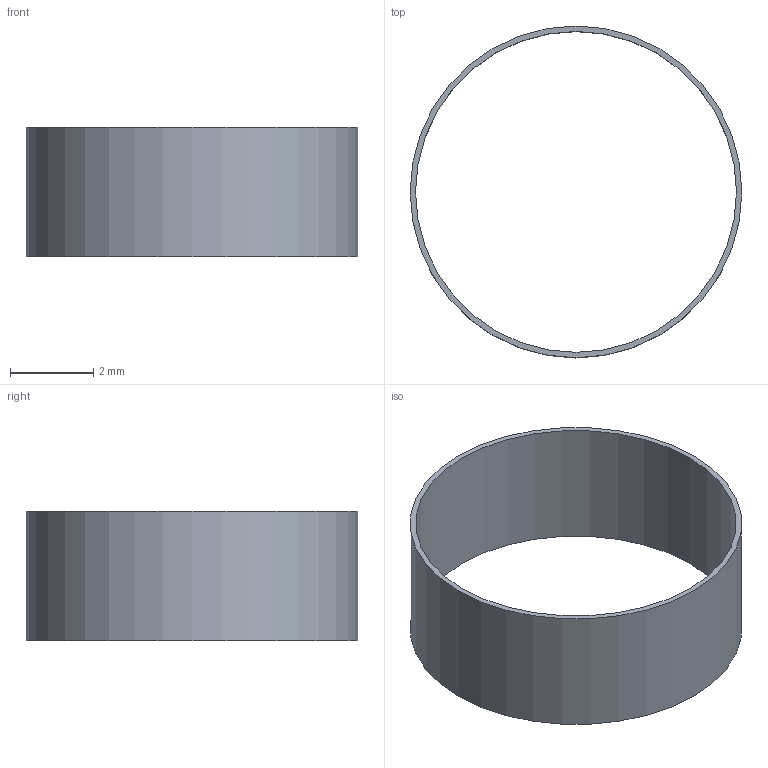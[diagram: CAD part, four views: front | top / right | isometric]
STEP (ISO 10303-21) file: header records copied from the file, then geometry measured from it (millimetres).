
FILE_DESCRIPTION(('Open CASCADE Model'),'2;1');
FILE_NAME('Open CASCADE Shape Model','2026-11-23T18:10:06',('Author'),( 'Open CASCADE'),'Open CASCADE STEP processor 8.0','build123d', 'Unknown');
FILE_SCHEMA(('AUTOMOTIVE_DESIGN { 1 0 10303 214 1 1 1 1 }'));
Length unit declared in the file: millimetre
Products named in the file (1): SOLID
Bounding box: 7.96 x 7.96 x 3.1 mm (x, y, z)
Volume: 9.9 mm3; surface area: 158.9 mm2
Topology: 1 solids, 1 shells, 4 faces, 6 edges, 4 vertices
Faces by surface type: cylinder 2, plane 2
Full cylindrical faces by diameter (mm): 7.7 x1, 7.96 x1
Entity records: 186 total; most frequent: DIRECTION 32, CARTESIAN_POINT 27, ORIENTED_EDGE 12, PCURVE 12, DEFINITIONAL_REPRESENTATION 12, LINE 10, VECTOR 10, AXIS2_PLACEMENT_3D 9
